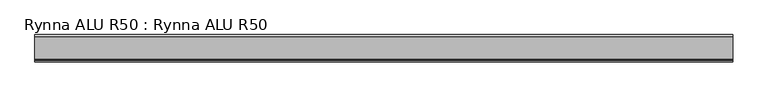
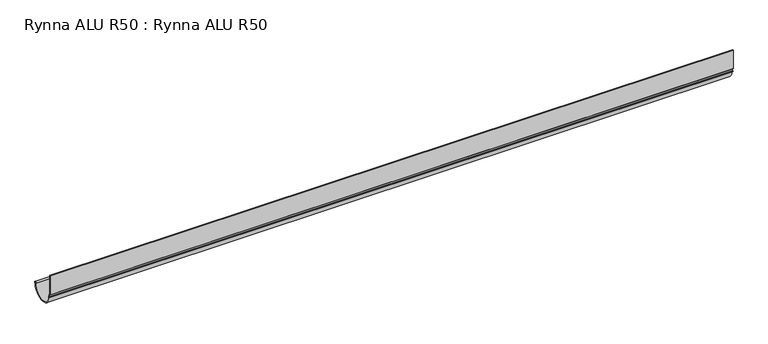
"""IFC4 building model written with IfcOpenShell, lengths in millimetres: proxy geometry, Rynna ALU R50 : Rynna ALU R50."""

from ifc_helpers import new_model, si_unit, point, frame, frame_2d, origin, place, context, project, spatial, polyline, circle_curve, trimmed, segment, composite_curve, outline, extrude, source, transform, mapped, element, save


def rynna_alu_r50_rynna_alu_r50_7d1cd2c4(model_context):
    return source(origin(), model_context, "Body", "SweptSolid", [
        extrude(outline(composite_curve([segment(polyline([(-0.6978396, 0.0), (0.7021617, 0.0), (0.7021617, -38.7702547), (3.0707013, -41.065916), (3.9370468, -46.8196069)]), True, "CONTINUOUS"), segment(trimmed(circle_curve(frame_2d((27.3646611, -44.302303)), 23.5624686), [point((3.9370468, -46.8196069))], [point((50.8512717, -46.1914952))], True, "CARTESIAN"), True, "CONTINUOUS"), segment(trimmed(circle_curve(frame_2d((50.3771937, -44.3000011)), 1.95), [point((50.8512717, -46.1914952))], [point((52.3271923, -44.302303))], False, "CARTESIAN"), True, "CONTINUOUS"), segment(trimmed(circle_curve(frame_2d((27.3646611, -44.302303)), 24.9625312), [point((52.3271923, -44.302303))], [point((2.6292486, -47.6619658))], False, "CARTESIAN"), True, "CONTINUOUS"), segment(polyline([(2.6292486, -47.6619658), (-0.1767814, -46.0765907), (-0.9565767, -44.1281649), (2.328284, -45.5225054), (1.8149767, -41.8701356), (-0.6978396, -39.5252625), (-0.6978396, 0.0)]), True, "CONTINUOUS")], self_intersect=False)), frame((-680.0, 0.0, 0.0), z_axis=(1.0, 0.0, 0.0), x_axis=(0.0, 1.0, 0.0)), (0.0, 0.0, 1.0), 1360.0),
    ])


if __name__ == "__main__":
    model = new_model("IFC4")
    model_context = context("Model", 3, world=origin())
    ifc_project = project(units=[si_unit("LENGTHUNIT", "METRE", prefix="MILLI")], contexts=[model_context])
    site = spatial("IfcSite", under=ifc_project)
    building = spatial("IfcBuilding", under=site)
    placement = place(None, origin())
    rynna_alu_r50_rynna_alu_r50_shape = rynna_alu_r50_rynna_alu_r50_7d1cd2c4(model_context)
    element("IfcBuildingElementProxy", 1, Name="Rynna ALU R50 : Rynna ALU R50", ObjectType="Rynna ALU R50 : Rynna ALU R50", at=placement, inside=building, context=model_context, shape_type="MappedRepresentation", body=[
        mapped(rynna_alu_r50_rynna_alu_r50_shape, transform((0.0, 0.0, 0.0), x_axis=(1.0, 0.0, 0.0), y_axis=(0.0, 1.0, 0.0), z_axis=(0.0, 0.0, 1.0))),
    ])
    save(model, "model.ifc")
